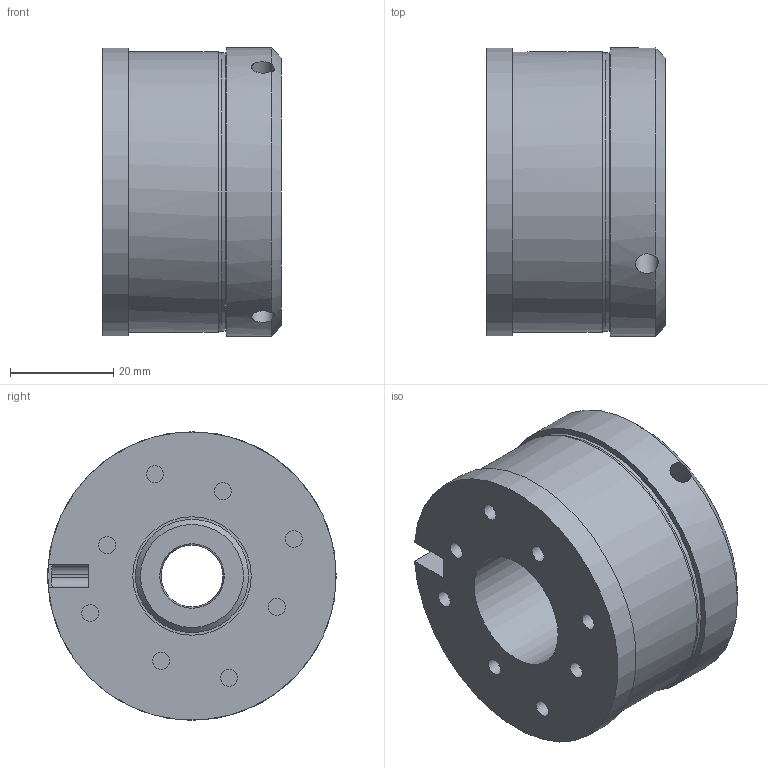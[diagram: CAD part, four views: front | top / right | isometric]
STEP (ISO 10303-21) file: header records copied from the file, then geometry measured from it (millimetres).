
FILE_DESCRIPTION (( 'STEP AP214' ), '1' );
FILE_NAME ('86_61105K00-0001_Idx_o.STEP', '2024-12-10T14:04:57', ( '' ), ( '' ), 'SwSTEP 2.0', 'SolidWorks 2018', '' );
FILE_SCHEMA (( 'AUTOMOTIVE_DESIGN' ));
Length unit declared in the file: millimetre
Products named in the file (1): 86_61105K00-0001_Idx_o
Bounding box: 34.75 x 56 x 56 mm (x, y, z)
Volume: 70179.1 mm3; surface area: 18514.8 mm2
Topology: 2 solids, 2 shells, 53 faces, 109 edges, 70 vertices
Faces by surface type: cylinder 24, plane 22, cone 5, torus 2
Full cylindrical faces by diameter (mm): 3.3 x11, 4.4 x3, 12 x1, 22 x1, 23 x1, 40.2 x1, 54 x1, 54.5 x1, 56 x1
Entity records: 1730 total; most frequent: CARTESIAN_POINT 540, DIRECTION 222, ORIENTED_EDGE 152, AXIS2_PLACEMENT_3D 103, EDGE_LOOP 101, FACE_OUTER_BOUND 76, EDGE_CURVE 76, VERTEX_POINT 65
